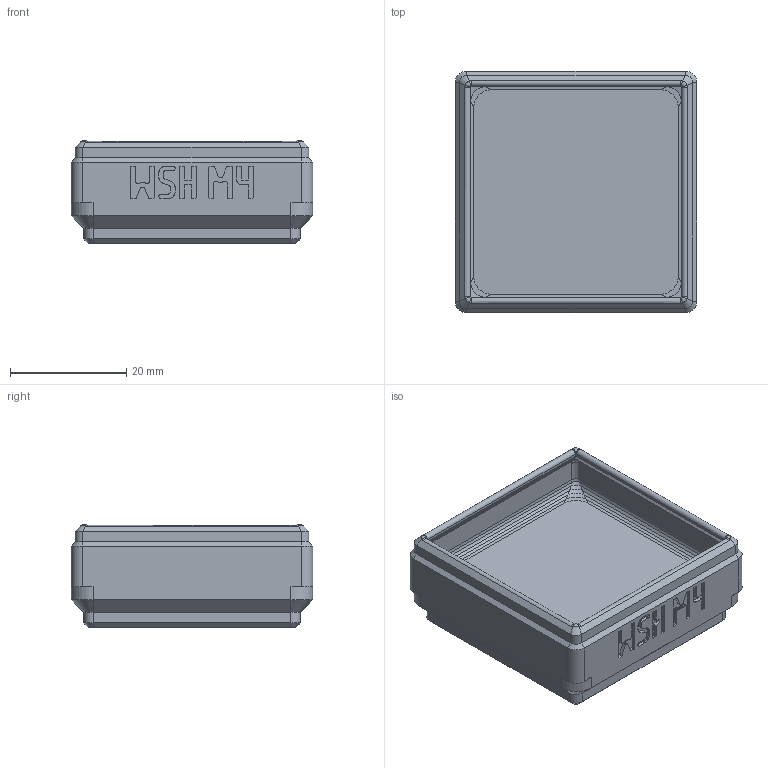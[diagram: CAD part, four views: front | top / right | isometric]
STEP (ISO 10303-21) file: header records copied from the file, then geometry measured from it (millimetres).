
FILE_DESCRIPTION(('Open CASCADE Model'),'2;1');
FILE_NAME('Open CASCADE Shape Model','2026-11-03T14:04:39',('Author'),( 'Open CASCADE'),'Open CASCADE STEP processor 8.0','build123d', 'Unknown');
FILE_SCHEMA(('AUTOMOTIVE_DESIGN { 1 0 10303 214 1 1 1 1 }'));
Products named in the file (1): SOLID
Bounding box: 41.5 x 41.5 x 17.7 mm (x, y, z)
Volume: 11837.8 mm3; surface area: 10754.7 mm2
Topology: 1 solids, 2 shells, 743 faces, 2063 edges, 1330 vertices
Faces by surface type: plane 607, bspline 92, cylinder 32, cone 12
Entity records: 53740 total; most frequent: CARTESIAN_POINT 13335, DIRECTION 7097, LINE 5593, VECTOR 5593, ORIENTED_EDGE 4126, PCURVE 4126, DEFINITIONAL_REPRESENTATION 4126, EDGE_CURVE 2063
